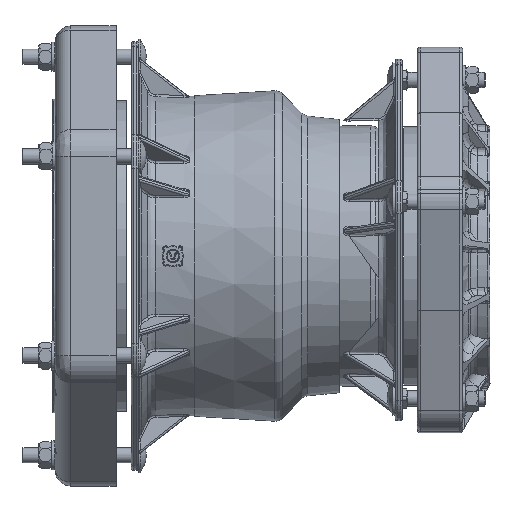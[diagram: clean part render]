
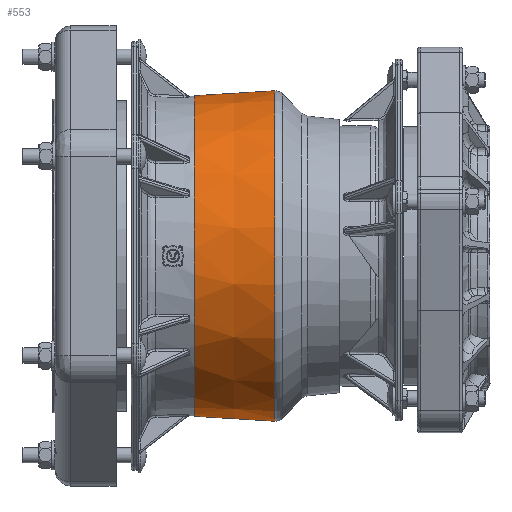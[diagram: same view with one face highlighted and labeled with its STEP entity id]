
A CAD part, front view. The second image highlights one B-rep face of the part: STEP entity #553.
In plain terms, the highlighted conical face has half-angle 3.483 degrees and reference radius 167.335 mm.
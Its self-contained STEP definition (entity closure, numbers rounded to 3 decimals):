
#526=CARTESIAN_POINT('',(-188.387,0.0,0.0));
#527=DIRECTION('',(1.0,0.0,0.0));
#528=DIRECTION('',(0.0,-1.0,0.0));
#529=AXIS2_PLACEMENT_3D('',#526,#527,#528);
#530=CONICAL_SURFACE('',#529,167.335,3.483);
#531=CARTESIAN_POINT('',(-131.774,0.,-170.78));
#532=VERTEX_POINT('',#531);
#533=CARTESIAN_POINT('',(-131.774,0.0,0.0));
#534=DIRECTION('',(-1.0,0.0,0.0));
#535=DIRECTION('',(0.0,-1.0,0.0));
#536=AXIS2_PLACEMENT_3D('',#533,#534,#535);
#537=CIRCLE('',#536,170.78);
#538=EDGE_CURVE('',#532,#532,#537,.T.);
#539=ORIENTED_EDGE('',*,*,#538,.T.);
#540=EDGE_LOOP('',(#539));
#541=FACE_OUTER_BOUND('',#540,.T.);
#542=CARTESIAN_POINT('',(-215.,165.715,0.));
#543=VERTEX_POINT('',#542);
#544=CARTESIAN_POINT('',(-215.,0.0,0.0));
#545=DIRECTION('',(-1.0,0.0,0.0));
#546=DIRECTION('',(0.0,-1.0,0.0));
#547=AXIS2_PLACEMENT_3D('',#544,#545,#546);
#548=CIRCLE('',#547,165.715);
#549=EDGE_CURVE('',#543,#543,#548,.T.);
#550=ORIENTED_EDGE('',*,*,#549,.F.);
#551=EDGE_LOOP('',(#550));
#552=FACE_BOUND('',#551,.T.);
#553=ADVANCED_FACE('',(#541,#552),#530,.T.);
